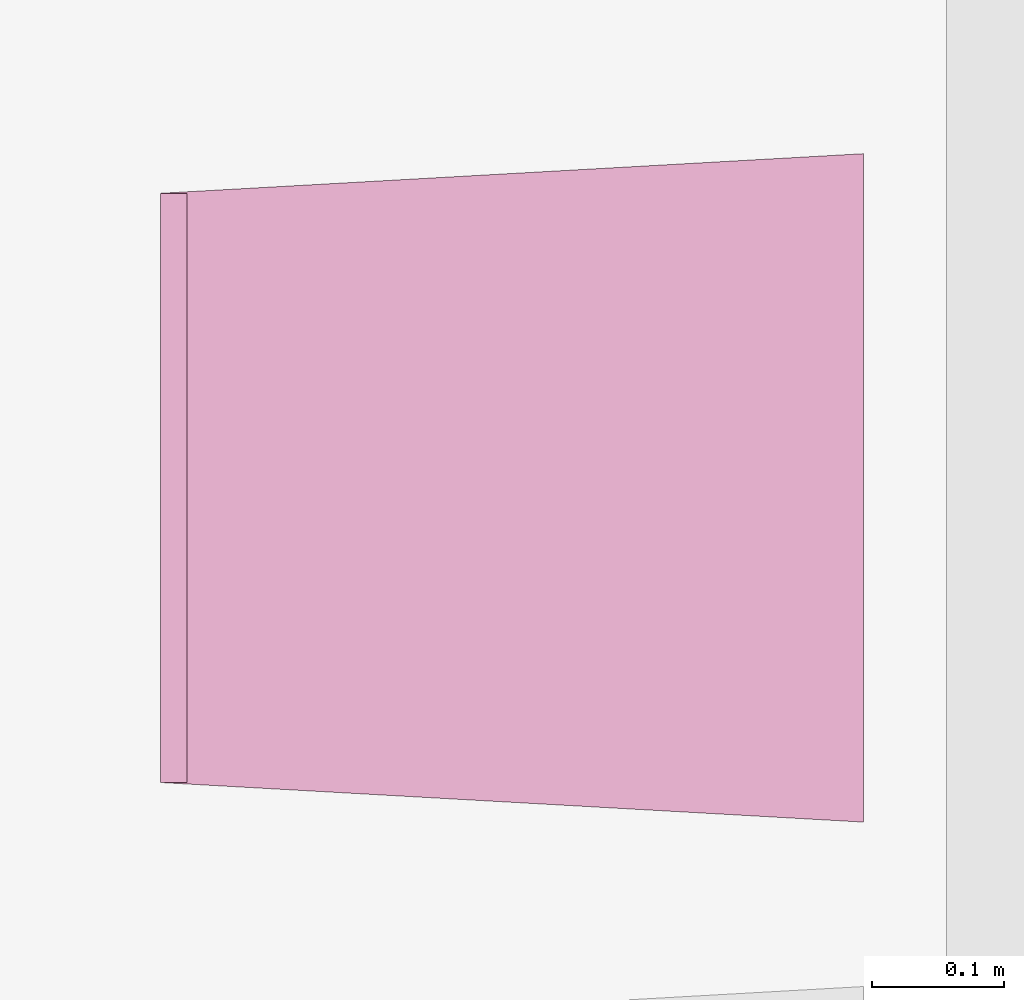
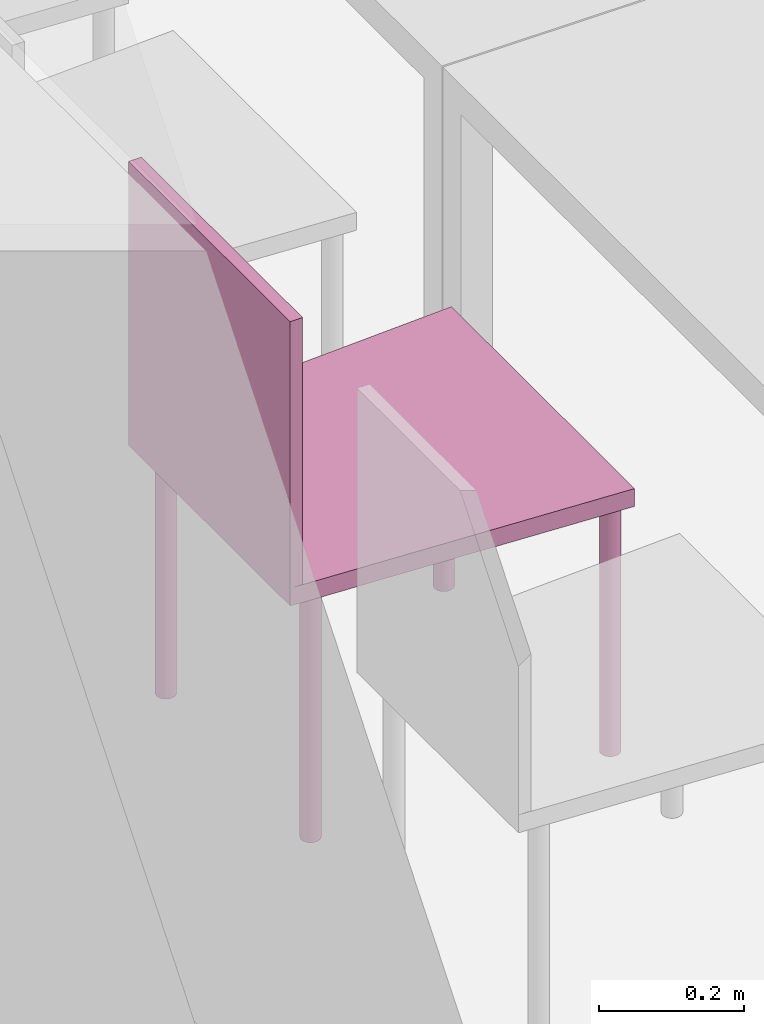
"""IFC4 building model written with IfcOpenShell, lengths in metres."""

from ifc_helpers import new_model, entity, si_unit, converted_unit, derived_unit, frame, origin, place, context, subcontext, project, spatial, faceted_brep, element, save


model = new_model("IFC4")

# Units and contexts
model_context = context("Model", 3, precision=1e-05, world=origin())
body_context = subcontext(model_context, "Body", "Model", "MODEL_VIEW")
ifc_project = project(units=[si_unit("LENGTHUNIT", "METRE"), si_unit("AREAUNIT", "SQUARE_METRE"), si_unit("VOLUMEUNIT", "CUBIC_METRE"), si_unit("MASSUNIT", "GRAM", prefix="KILO"), converted_unit("PLANEANGLEUNIT", "DEGREE", entity("IfcPlaneAngleMeasure", 0.0174532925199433), si_unit("PLANEANGLEUNIT", "RADIAN"), dimensions=[0, 0, 0, 0, 0, 0, 0]), derived_unit("THERMALTRANSMITTANCEUNIT", [(si_unit("POWERUNIT", "WATT"), 1), (si_unit("THERMODYNAMICTEMPERATUREUNIT", "KELVIN"), -1), (si_unit("LENGTHUNIT", "METRE"), -2)]), derived_unit("VOLUMETRICFLOWRATEUNIT", [(si_unit("LENGTHUNIT", "METRE"), 3), (converted_unit("TIMEUNIT", "hour", entity("IfcTimeMeasure", 3600.0), si_unit("TIMEUNIT", "SECOND"), dimensions=[0, 0, 1, 0, 0, 0, 0]), -1), (si_unit("LENGTHUNIT", "METRE"), -1)])], contexts=[model_context])

# Building, storeys
building_placement = place(None, origin())
building = spatial("IfcBuilding", under=ifc_project, at=building_placement, Name="HABITATGE PLURIFAMILIAR", CompositionType="ELEMENT")
storey_1_placement = place(building_placement, frame((0.0, 0.0, 3.35)))
storey_1 = spatial("IfcBuildingStorey", under=building, at=storey_1_placement, Name="PLANTA  ALTELL", CompositionType="ELEMENT", Elevation=3.35)
storey_2_placement = place(storey_1_placement, origin())
storey_2 = spatial("IfcBuildingStorey", under=storey_1, at=storey_2_placement, Name="NOU", CompositionType="PARTIAL")

# Furniture
furniture_placement = place(storey_2_placement, frame((399.386206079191, 14.9203721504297, 0.0499839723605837)))
element("IfcFurniture", 1, at=furniture_placement, inside=storey_2, Name="Cadira confident_PA", context=body_context, shape_type="Brep", body=[
    faceted_brep([(0.507575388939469, 0.0391636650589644, 0.0), (0.504980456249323, 0.0389479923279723, 0.0), (0.502462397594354, 0.0382849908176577, 0.0), (0.500097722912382, 0.0371948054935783, 0.0), (0.497958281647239, 0.0357105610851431, 0.0), (0.496109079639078, 0.0338773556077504, 0.0), (0.494606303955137, 0.0317508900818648, 0.0), (0.493495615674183, 0.0293957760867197, 0.0), (0.492810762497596, 0.0268835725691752, 0.0), (0.492572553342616, 0.0242906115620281, 0.0), (0.492788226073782, 0.0216956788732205, 0.0), (0.493451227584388, 0.019177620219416, 0.0), (0.494541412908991, 0.0168129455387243, 0.0), (0.496025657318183, 0.0146735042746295, 0.0), (0.497858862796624, 0.0128243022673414, 0.0), (0.499985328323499, 0.0113215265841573, 0.0), (0.502340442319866, 0.0102108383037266, 0.0), (0.504852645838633, 0.00952598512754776, 0.0), (0.507445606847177, 0.00928777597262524, 0.0), (0.510040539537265, 0.00950344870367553, 0.0), (0.512558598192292, 0.010166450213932, 0.0), (0.514923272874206, 0.0112566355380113, 0.0), (0.517062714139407, 0.0127408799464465, 0.0), (0.518911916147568, 0.0145740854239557, 0.0), (0.520414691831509, 0.0167005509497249, 0.0), (0.521525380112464, 0.0190556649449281, 0.0), (0.52221023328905, 0.0215678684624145, 0.0), (0.522448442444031, 0.0241608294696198, 0.0), (0.522232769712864, 0.0267557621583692, 0.0), (0.521569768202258, 0.0292738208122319, 0.0), (0.520479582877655, 0.0316384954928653, 0.0), (0.518995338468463, 0.0337779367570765, 0.0), (0.517162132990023, 0.0356271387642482, 0.0), (0.515035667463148, 0.0371299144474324, 0.0), (0.51268055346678, 0.038240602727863, 0.0), (0.510168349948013, 0.0389254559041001, 0.0), (0.507575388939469, 0.0391636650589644, 0.448281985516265), (0.510168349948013, 0.0389254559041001, 0.448281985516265), (0.51268055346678, 0.038240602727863, 0.448281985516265), (0.515035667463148, 0.0371299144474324, 0.448281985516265), (0.517162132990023, 0.0356271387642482, 0.448281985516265), (0.518995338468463, 0.0337779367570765, 0.448281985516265), (0.520479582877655, 0.0316384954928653, 0.448281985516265), (0.521569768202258, 0.0292738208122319, 0.448281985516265), (0.522232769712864, 0.0267557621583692, 0.448281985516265), (0.522448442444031, 0.0241608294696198, 0.448281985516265), (0.52221023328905, 0.0215678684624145, 0.448281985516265), (0.521525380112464, 0.0190556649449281, 0.448281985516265), (0.520414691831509, 0.0167005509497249, 0.448281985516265), (0.518911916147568, 0.0145740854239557, 0.448281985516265), (0.517062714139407, 0.0127408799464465, 0.448281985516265), (0.514923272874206, 0.0112566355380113, 0.448281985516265), (0.512558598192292, 0.010166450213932, 0.448281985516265), (0.510040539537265, 0.00950344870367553, 0.448281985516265), (0.507445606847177, 0.00928777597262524, 0.448281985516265), (0.504852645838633, 0.00952598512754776, 0.448281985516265), (0.502340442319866, 0.0102108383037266, 0.448281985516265), (0.499985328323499, 0.0113215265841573, 0.448281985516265), (0.497858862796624, 0.0128243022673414, 0.448281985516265), (0.496025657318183, 0.0146735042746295, 0.448281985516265), (0.494541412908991, 0.0168129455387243, 0.448281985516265), (0.493451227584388, 0.019177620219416, 0.448281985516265), (0.492788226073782, 0.0216956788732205, 0.448281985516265), (0.492572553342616, 0.0242906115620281, 0.448281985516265), (0.492810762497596, 0.0268835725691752, 0.448281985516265), (0.493495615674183, 0.0293957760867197, 0.448281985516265), (0.494606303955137, 0.0317508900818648, 0.448281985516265), (0.496109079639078, 0.0338773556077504, 0.448281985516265), (0.497958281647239, 0.0357105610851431, 0.448281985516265), (0.500097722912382, 0.0371948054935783, 0.448281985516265), (0.502462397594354, 0.0382849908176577, 0.448281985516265), (0.504980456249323, 0.0389479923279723, 0.448281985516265)], [[[0, 1, 2, 3, 4, 5, 6, 7, 8, 9, 10, 11, 12, 13, 14, 15, 16, 17, 18, 19, 20, 21, 22, 23, 24, 25, 26, 27, 28, 29, 30, 31, 32, 33, 34, 35]], [[36, 37, 38, 39, 40, 41, 42, 43, 44, 45, 46, 47, 48, 49, 50, 51, 52, 53, 54, 55, 56, 57, 58, 59, 60, 61, 62, 63, 64, 65, 66, 67, 68, 69, 70, 71]], [[1, 0, 36, 71]], [[2, 1, 71, 70]], [[3, 2, 70, 69]], [[4, 3, 69, 68]], [[5, 4, 68, 67]], [[6, 5, 67, 66]], [[7, 6, 66, 65]], [[8, 7, 65, 64]], [[9, 8, 64, 63]], [[10, 9, 63, 62]], [[11, 10, 62, 61]], [[12, 11, 61, 60]], [[13, 12, 60, 59]], [[14, 13, 59, 58]], [[15, 14, 58, 57]], [[16, 15, 57, 56]], [[17, 16, 56, 55]], [[18, 17, 55, 54]], [[19, 18, 54, 53]], [[20, 19, 53, 52]], [[21, 20, 52, 51]], [[22, 21, 51, 50]], [[23, 22, 50, 49]], [[24, 23, 49, 48]], [[25, 24, 48, 47]], [[26, 25, 47, 46]], [[27, 26, 46, 45]], [[28, 27, 45, 44]], [[29, 28, 44, 43]], [[30, 29, 43, 42]], [[31, 30, 42, 41]], [[32, 31, 41, 40]], [[33, 32, 40, 39]], [[34, 33, 39, 38]], [[35, 34, 38, 37]], [[0, 35, 37, 36]]], orient=[[False], [False], [False], [False], [False], [False], [False], [False], [False], [False], [False], [False], [False], [False], [False], [False], [False], [False], [False], [False], [False], [False], [False], [False], [False], [False], [False], [False], [False], [False], [False], [False], [False], [False], [False], [False], [False], [False]]),
    faceted_brep([(0.0451683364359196, 0.0668016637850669, 0.0), (0.0425734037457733, 0.0665859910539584, 0.0), (0.0400553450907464, 0.065922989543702, 0.0), (0.0376906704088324, 0.0648328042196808, 0.0), (0.0355512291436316, 0.0633485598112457, 0.0), (0.0337020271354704, 0.0615153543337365, 0.0), (0.0321992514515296, 0.0593888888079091, 0.0), (0.0310885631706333, 0.057033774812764, 0.0), (0.0304037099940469, 0.0545215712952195, 0.0), (0.030165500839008, 0.0519286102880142, 0.0), (0.0303811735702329, 0.0493336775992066, 0.0), (0.0310441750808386, 0.0468156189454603, 0.0), (0.0321343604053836, 0.0444509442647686, 0.0), (0.0336186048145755, 0.0423115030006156, 0.0), (0.035451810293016, 0.0404623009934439, 0.0), (0.0375782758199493, 0.0389595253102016, 0.0), (0.0399333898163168, 0.0378488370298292, 0.0), (0.0424455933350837, 0.0371639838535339, 0.0), (0.0450385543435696, 0.0369257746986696, 0.0), (0.0476334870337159, 0.0371414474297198, 0.0), (0.0501515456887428, 0.0378044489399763, 0.0), (0.0525162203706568, 0.0388946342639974, 0.0), (0.0546556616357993, 0.0403788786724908, 0.0), (0.0565048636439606, 0.0422120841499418, 0.0), (0.0580076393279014, 0.0443385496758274, 0.0), (0.0591183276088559, 0.0466936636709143, 0.0), (0.0598031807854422, 0.0492058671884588, 0.0), (0.060041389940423, 0.0517988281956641, 0.0), (0.0598257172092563, 0.0543937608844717, 0.0), (0.0591627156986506, 0.056911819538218, 0.0), (0.0580725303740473, 0.0592764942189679, 0.0), (0.0565882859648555, 0.0614159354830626, 0.0), (0.054755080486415, 0.0632651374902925, 0.0), (0.0526286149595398, 0.0647679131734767, 0.0), (0.0502735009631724, 0.0658786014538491, 0.0), (0.0477612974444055, 0.0665634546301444, 0.0), (0.0451683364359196, 0.0668016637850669, 0.448281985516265), (0.0477612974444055, 0.0665634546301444, 0.448281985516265), (0.0502735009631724, 0.0658786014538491, 0.448281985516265), (0.0526286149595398, 0.0647679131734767, 0.448281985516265), (0.054755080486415, 0.0632651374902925, 0.448281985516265), (0.0565882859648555, 0.0614159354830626, 0.448281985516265), (0.0580725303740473, 0.0592764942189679, 0.448281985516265), (0.0591627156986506, 0.056911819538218, 0.448281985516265), (0.0598257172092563, 0.0543937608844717, 0.448281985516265), (0.060041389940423, 0.0517988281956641, 0.448281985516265), (0.0598031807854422, 0.0492058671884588, 0.448281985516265), (0.0591183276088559, 0.0466936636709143, 0.448281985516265), (0.0580076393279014, 0.0443385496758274, 0.448281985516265), (0.0565048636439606, 0.0422120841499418, 0.448281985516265), (0.0546556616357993, 0.0403788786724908, 0.448281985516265), (0.0525162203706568, 0.0388946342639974, 0.448281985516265), (0.0501515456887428, 0.0378044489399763, 0.448281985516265), (0.0476334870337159, 0.0371414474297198, 0.448281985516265), (0.0450385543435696, 0.0369257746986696, 0.448281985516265), (0.0424455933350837, 0.0371639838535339, 0.448281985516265), (0.0399333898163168, 0.0378488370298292, 0.448281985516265), (0.0375782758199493, 0.0389595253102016, 0.448281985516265), (0.035451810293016, 0.0404623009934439, 0.448281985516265), (0.0336186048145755, 0.0423115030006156, 0.448281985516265), (0.0321343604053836, 0.0444509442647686, 0.448281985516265), (0.0310441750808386, 0.0468156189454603, 0.448281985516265), (0.0303811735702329, 0.0493336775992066, 0.448281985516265), (0.030165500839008, 0.0519286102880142, 0.448281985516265), (0.0304037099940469, 0.0545215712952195, 0.448281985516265), (0.0310885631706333, 0.057033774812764, 0.448281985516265), (0.0321992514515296, 0.0593888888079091, 0.448281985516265), (0.0337020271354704, 0.0615153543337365, 0.448281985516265), (0.0355512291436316, 0.0633485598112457, 0.448281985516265), (0.0376906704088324, 0.0648328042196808, 0.448281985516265), (0.0400553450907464, 0.065922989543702, 0.448281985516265), (0.0425734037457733, 0.0665859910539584, 0.448281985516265)], [[[0, 1, 2, 3, 4, 5, 6, 7, 8, 9, 10, 11, 12, 13, 14, 15, 16, 17, 18, 19, 20, 21, 22, 23, 24, 25, 26, 27, 28, 29, 30, 31, 32, 33, 34, 35]], [[36, 37, 38, 39, 40, 41, 42, 43, 44, 45, 46, 47, 48, 49, 50, 51, 52, 53, 54, 55, 56, 57, 58, 59, 60, 61, 62, 63, 64, 65, 66, 67, 68, 69, 70, 71]], [[1, 0, 36, 71]], [[2, 1, 71, 70]], [[3, 2, 70, 69]], [[4, 3, 69, 68]], [[5, 4, 68, 67]], [[6, 5, 67, 66]], [[7, 6, 66, 65]], [[8, 7, 65, 64]], [[9, 8, 64, 63]], [[10, 9, 63, 62]], [[11, 10, 62, 61]], [[12, 11, 61, 60]], [[13, 12, 60, 59]], [[14, 13, 59, 58]], [[15, 14, 58, 57]], [[16, 15, 57, 56]], [[17, 16, 56, 55]], [[18, 17, 55, 54]], [[19, 18, 54, 53]], [[20, 19, 53, 52]], [[21, 20, 52, 51]], [[22, 21, 51, 50]], [[23, 22, 50, 49]], [[24, 23, 49, 48]], [[25, 24, 48, 47]], [[26, 25, 47, 46]], [[27, 26, 46, 45]], [[28, 27, 45, 44]], [[29, 28, 44, 43]], [[30, 29, 43, 42]], [[31, 30, 42, 41]], [[32, 31, 41, 40]], [[33, 32, 40, 39]], [[34, 33, 39, 38]], [[35, 34, 38, 37]], [[0, 35, 37, 36]]], orient=[[False], [False], [False], [False], [False], [False], [False], [False], [False], [False], [False], [False], [False], [False], [False], [False], [False], [False], [False], [False], [False], [False], [False], [False], [False], [False], [False], [False], [False], [False], [False], [False], [False], [False], [False], [False], [False], [False]]),
    faceted_brep([(0.50757538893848, 0.499163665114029, 0.0), (0.504980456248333, 0.49894799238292, 0.0), (0.502462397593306, 0.498284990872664, 0.0), (0.500097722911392, 0.497194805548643, 0.0), (0.49795828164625, 0.495710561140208, 0.0), (0.49610907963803, 0.493877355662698, 0.0), (0.494606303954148, 0.491750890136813, 0.0), (0.493495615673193, 0.489395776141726, 0.0), (0.492810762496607, 0.486883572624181, 0.0), (0.492572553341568, 0.484290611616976, 0.0), (0.492788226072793, 0.481695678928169, 0.0), (0.493451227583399, 0.479177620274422, 0.0), (0.494541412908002, 0.476812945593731, 0.0), (0.496025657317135, 0.474673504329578, 0.0), (0.497858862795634, 0.472824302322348, 0.0), (0.499985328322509, 0.471321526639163, 0.0), (0.502340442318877, 0.470210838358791, 0.0), (0.504852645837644, 0.469525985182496, 0.0), (0.507445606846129, 0.469287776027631, 0.0), (0.510040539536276, 0.469503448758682, 0.0), (0.512558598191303, 0.470166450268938, 0.0), (0.514923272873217, 0.471256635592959, 0.0), (0.517062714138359, 0.472740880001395, 0.0), (0.518911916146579, 0.474574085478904, 0.0), (0.520414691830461, 0.476700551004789, 0.0), (0.521525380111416, 0.479055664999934, 0.0), (0.522210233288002, 0.481567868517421, 0.0), (0.522448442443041, 0.484160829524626, 0.0), (0.522232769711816, 0.486755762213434, 0.0), (0.521569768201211, 0.489273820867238, 0.0), (0.520479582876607, 0.491638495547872, 0.0), (0.518995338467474, 0.493777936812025, 0.0), (0.517162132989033, 0.495627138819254, 0.0), (0.5150356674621, 0.497129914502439, 0.0), (0.512680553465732, 0.498240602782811, 0.0), (0.510168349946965, 0.498925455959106, 0.0), (0.50757538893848, 0.499163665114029, 0.448281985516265), (0.510168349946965, 0.498925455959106, 0.448281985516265), (0.512680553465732, 0.498240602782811, 0.448281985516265), (0.5150356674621, 0.497129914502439, 0.448281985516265), (0.517162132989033, 0.495627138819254, 0.448281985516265), (0.518995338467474, 0.493777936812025, 0.448281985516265), (0.520479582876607, 0.491638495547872, 0.448281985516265), (0.521569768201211, 0.489273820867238, 0.448281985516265), (0.522232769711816, 0.486755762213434, 0.448281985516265), (0.522448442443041, 0.484160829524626, 0.448281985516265), (0.522210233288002, 0.481567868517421, 0.448281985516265), (0.521525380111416, 0.479055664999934, 0.448281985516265), (0.520414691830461, 0.476700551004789, 0.448281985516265), (0.518911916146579, 0.474574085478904, 0.448281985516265), (0.517062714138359, 0.472740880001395, 0.448281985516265), (0.514923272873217, 0.471256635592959, 0.448281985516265), (0.512558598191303, 0.470166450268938, 0.448281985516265), (0.510040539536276, 0.469503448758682, 0.448281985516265), (0.507445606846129, 0.469287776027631, 0.448281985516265), (0.504852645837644, 0.469525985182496, 0.448281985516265), (0.502340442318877, 0.470210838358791, 0.448281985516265), (0.499985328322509, 0.471321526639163, 0.448281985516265), (0.497858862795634, 0.472824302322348, 0.448281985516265), (0.496025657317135, 0.474673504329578, 0.448281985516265), (0.494541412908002, 0.476812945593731, 0.448281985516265), (0.493451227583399, 0.479177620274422, 0.448281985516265), (0.492788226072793, 0.481695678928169, 0.448281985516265), (0.492572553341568, 0.484290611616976, 0.448281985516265), (0.492810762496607, 0.486883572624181, 0.448281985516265), (0.493495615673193, 0.489395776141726, 0.448281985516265), (0.494606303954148, 0.491750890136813, 0.448281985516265), (0.49610907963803, 0.493877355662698, 0.448281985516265), (0.49795828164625, 0.495710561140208, 0.448281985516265), (0.500097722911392, 0.497194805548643, 0.448281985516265), (0.502462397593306, 0.498284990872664, 0.448281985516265), (0.504980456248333, 0.49894799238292, 0.448281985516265)], [[[0, 1, 2, 3, 4, 5, 6, 7, 8, 9, 10, 11, 12, 13, 14, 15, 16, 17, 18, 19, 20, 21, 22, 23, 24, 25, 26, 27, 28, 29, 30, 31, 32, 33, 34, 35]], [[36, 37, 38, 39, 40, 41, 42, 43, 44, 45, 46, 47, 48, 49, 50, 51, 52, 53, 54, 55, 56, 57, 58, 59, 60, 61, 62, 63, 64, 65, 66, 67, 68, 69, 70, 71]], [[1, 0, 36, 71]], [[2, 1, 71, 70]], [[3, 2, 70, 69]], [[4, 3, 69, 68]], [[5, 4, 68, 67]], [[6, 5, 67, 66]], [[7, 6, 66, 65]], [[8, 7, 65, 64]], [[9, 8, 64, 63]], [[10, 9, 63, 62]], [[11, 10, 62, 61]], [[12, 11, 61, 60]], [[13, 12, 60, 59]], [[14, 13, 59, 58]], [[15, 14, 58, 57]], [[16, 15, 57, 56]], [[17, 16, 56, 55]], [[18, 17, 55, 54]], [[19, 18, 54, 53]], [[20, 19, 53, 52]], [[21, 20, 52, 51]], [[22, 21, 51, 50]], [[23, 22, 50, 49]], [[24, 23, 49, 48]], [[25, 24, 48, 47]], [[26, 25, 47, 46]], [[27, 26, 46, 45]], [[28, 27, 45, 44]], [[29, 28, 44, 43]], [[30, 29, 43, 42]], [[31, 30, 42, 41]], [[32, 31, 41, 40]], [[33, 32, 40, 39]], [[34, 33, 39, 38]], [[35, 34, 38, 37]], [[0, 35, 37, 36]]], orient=[[False], [False], [False], [False], [False], [False], [False], [False], [False], [False], [False], [False], [False], [False], [False], [False], [False], [False], [False], [False], [False], [False], [False], [False], [False], [False], [False], [False], [False], [False], [False], [False], [False], [False], [False], [False], [False], [False]]),
    faceted_brep([(0.0451683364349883, 0.466801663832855, 0.0), (0.0425734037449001, 0.466585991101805, 0.0), (0.0400553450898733, 0.465922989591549, 0.0), (0.0376906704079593, 0.464832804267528, 0.0), (0.0355512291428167, 0.463348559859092, 0.0), (0.0337020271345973, 0.461515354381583, 0.0), (0.0321992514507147, 0.459388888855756, 0.0), (0.0310885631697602, 0.457033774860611, 0.0), (0.0304037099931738, 0.454521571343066, 0.0), (0.0301655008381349, 0.451928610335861, 0.0), (0.0303811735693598, 0.449333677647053, 0.0), (0.0310441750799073, 0.446815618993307, 0.0), (0.0321343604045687, 0.444450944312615, 0.0), (0.0336186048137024, 0.442311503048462, 0.0), (0.0354518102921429, 0.440462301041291, 0.0), (0.0375782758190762, 0.438959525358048, 0.0), (0.0399333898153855, 0.437848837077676, 0.0), (0.0424455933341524, 0.437163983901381, 0.0), (0.0450385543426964, 0.436925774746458, 0.0), (0.0476334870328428, 0.437141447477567, 0.0), (0.0501515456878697, 0.437804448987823, 0.0), (0.0525162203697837, 0.438894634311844, 0.0), (0.0546556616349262, 0.440378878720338, 0.0), (0.0565048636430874, 0.442212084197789, 0.0), (0.0580076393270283, 0.444338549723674, 0.0), (0.0591183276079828, 0.446693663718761, 0.0), (0.0598031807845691, 0.449205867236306, 0.0), (0.0600413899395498, 0.451798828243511, 0.0), (0.0598257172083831, 0.454393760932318, 0.0), (0.0591627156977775, 0.456911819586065, 0.0), (0.0580725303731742, 0.459276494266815, 0.0), (0.0565882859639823, 0.461415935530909, 0.0), (0.0547550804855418, 0.463265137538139, 0.0), (0.0526286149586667, 0.464767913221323, 0.0), (0.0502735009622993, 0.465878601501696, 0.0), (0.0477612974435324, 0.466563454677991, 0.0), (0.0451683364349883, 0.466801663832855, 0.448281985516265), (0.0477612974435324, 0.466563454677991, 0.448281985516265), (0.0502735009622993, 0.465878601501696, 0.448281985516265), (0.0526286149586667, 0.464767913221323, 0.448281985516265), (0.0547550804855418, 0.463265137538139, 0.448281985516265), (0.0565882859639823, 0.461415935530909, 0.448281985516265), (0.0580725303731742, 0.459276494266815, 0.448281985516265), (0.0591627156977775, 0.456911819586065, 0.448281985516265), (0.0598257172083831, 0.454393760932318, 0.448281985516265), (0.0600413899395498, 0.451798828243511, 0.448281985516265), (0.0598031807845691, 0.449205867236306, 0.448281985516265), (0.0591183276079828, 0.446693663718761, 0.448281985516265), (0.0580076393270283, 0.444338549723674, 0.448281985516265), (0.0565048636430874, 0.442212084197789, 0.448281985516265), (0.0546556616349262, 0.440378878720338, 0.448281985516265), (0.0525162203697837, 0.438894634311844, 0.448281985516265), (0.0501515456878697, 0.437804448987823, 0.448281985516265), (0.0476334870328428, 0.437141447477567, 0.448281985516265), (0.0450385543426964, 0.436925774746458, 0.448281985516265), (0.0424455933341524, 0.437163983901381, 0.448281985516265), (0.0399333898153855, 0.437848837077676, 0.448281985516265), (0.0375782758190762, 0.438959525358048, 0.448281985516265), (0.0354518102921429, 0.440462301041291, 0.448281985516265), (0.0336186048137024, 0.442311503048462, 0.448281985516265), (0.0321343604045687, 0.444450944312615, 0.448281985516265), (0.0310441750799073, 0.446815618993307, 0.448281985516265), (0.0303811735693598, 0.449333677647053, 0.448281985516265), (0.0301655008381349, 0.451928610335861, 0.448281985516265), (0.0304037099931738, 0.454521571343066, 0.448281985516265), (0.0310885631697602, 0.457033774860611, 0.448281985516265), (0.0321992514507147, 0.459388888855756, 0.448281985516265), (0.0337020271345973, 0.461515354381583, 0.448281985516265), (0.0355512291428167, 0.463348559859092, 0.448281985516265), (0.0376906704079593, 0.464832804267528, 0.448281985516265), (0.0400553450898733, 0.465922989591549, 0.448281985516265), (0.0425734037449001, 0.466585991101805, 0.448281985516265)], [[[0, 1, 2, 3, 4, 5, 6, 7, 8, 9, 10, 11, 12, 13, 14, 15, 16, 17, 18, 19, 20, 21, 22, 23, 24, 25, 26, 27, 28, 29, 30, 31, 32, 33, 34, 35]], [[36, 37, 38, 39, 40, 41, 42, 43, 44, 45, 46, 47, 48, 49, 50, 51, 52, 53, 54, 55, 56, 57, 58, 59, 60, 61, 62, 63, 64, 65, 66, 67, 68, 69, 70, 71]], [[1, 0, 36, 71]], [[2, 1, 71, 70]], [[3, 2, 70, 69]], [[4, 3, 69, 68]], [[5, 4, 68, 67]], [[6, 5, 67, 66]], [[7, 6, 66, 65]], [[8, 7, 65, 64]], [[9, 8, 64, 63]], [[10, 9, 63, 62]], [[11, 10, 62, 61]], [[12, 11, 61, 60]], [[13, 12, 60, 59]], [[14, 13, 59, 58]], [[15, 14, 58, 57]], [[16, 15, 57, 56]], [[17, 16, 56, 55]], [[18, 17, 55, 54]], [[19, 18, 54, 53]], [[20, 19, 53, 52]], [[21, 20, 52, 51]], [[22, 21, 51, 50]], [[23, 22, 50, 49]], [[24, 23, 49, 48]], [[25, 24, 48, 47]], [[26, 25, 47, 46]], [[27, 26, 46, 45]], [[28, 27, 45, 44]], [[29, 28, 44, 43]], [[30, 29, 43, 42]], [[31, 30, 42, 41]], [[32, 31, 41, 40]], [[33, 32, 40, 39]], [[34, 33, 39, 38]], [[35, 34, 38, 37]], [[0, 35, 37, 36]]], orient=[[False], [False], [False], [False], [False], [False], [False], [False], [False], [False], [False], [False], [False], [False], [False], [False], [False], [False], [False], [False], [False], [False], [False], [False], [False], [False], [False], [False], [False], [False], [False], [False], [False], [False], [False], [False], [False], [False]]),
    faceted_brep([(0.0, 0.476514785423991, 0.418281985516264), (0.0, 0.0300000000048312, 0.418281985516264), (0.532607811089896, 0.0, 0.418281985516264), (0.532607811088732, 0.506514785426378, 0.418281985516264), (0.532607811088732, 0.506514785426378, 0.448281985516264), (0.532607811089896, 0.0, 0.448281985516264), (0.0, 0.0300000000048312, 0.448281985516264), (0.0, 0.476514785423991, 0.448281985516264)], [[[0, 1, 2, 3]], [[4, 5, 6, 7]], [[3, 4, 7, 0]], [[2, 5, 4, 3]], [[1, 6, 5, 2]], [[0, 7, 6, 1]]], orient=[[False], [False], [False], [False], [False], [False]]),
    faceted_brep([(0.0200000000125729, 0.476514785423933, 0.448281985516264), (0.0, 0.476514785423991, 0.448281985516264), (0.0, 0.0300000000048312, 0.448281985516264), (0.0200000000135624, 0.0300000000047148, 0.448281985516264), (0.0200000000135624, 0.0300000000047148, 0.898281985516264), (0.0, 0.0300000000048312, 0.898281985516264), (0.0, 0.476514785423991, 0.898281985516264), (0.0200000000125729, 0.476514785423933, 0.898281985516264)], [[[0, 1, 2, 3]], [[4, 5, 6, 7]], [[3, 4, 7, 0]], [[2, 5, 4, 3]], [[1, 6, 5, 2]], [[0, 7, 6, 1]]], orient=[[False], [False], [False], [False], [False], [False]]),
])

save(model, "model.ifc")
